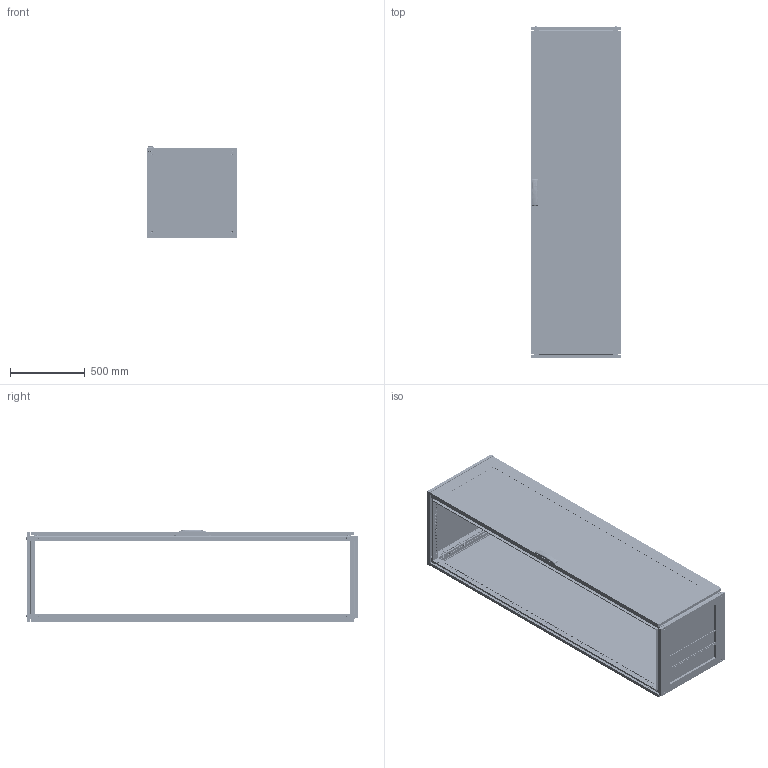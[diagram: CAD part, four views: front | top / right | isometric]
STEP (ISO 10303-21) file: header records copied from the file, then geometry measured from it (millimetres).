
FILE_DESCRIPTION (( 'STEP AP203' ), '1' );
FILE_NAME ('R5CQEN2266AX.STEP', '2025-05-07T12:15:13', ( '' ), ( '' ), 'SwSTEP 2.0', 'SolidWorks 2022', '' );
FILE_SCHEMA (( 'CONFIG_CONTROL_DESIGN' ));
Length unit declared in the file: millimetre
Products named in the file (66): RB.0528.04.00.0 СБ simple; RB.2686.00.00.0 simple; M6x10 DIN 7500 E HX cl.5.8 Zinc_straight; R5CQEN2266AX; R5NCRE-Assem simple_R5NCRE2260; AC00C446-R; R5NKMN - Assem simple_R5NKMN22 (600х600); RB.0562.00.00.0 СБ simple_-18; RB.1957.00.00.0 simple_-05; RB.2968.00.00.0 simple; 4.8x13 DIN 7981 PH Zinc_straight; RB.1633.00.01.0 simple_-02; RB.0562.01.01.0 simple_-18; R5NCPTE - Assem simple_R5NCPTE2260; TPA.08.0139.00.03.0; ATOS Traction guide ILY03.35; TPA.08.0139.00.01.0 simple; M6 MGR-MKO-0625 simple_Thread; RB.1867.01.01.0 simple_-09; RB.1867.01.00.0 СБ simple_-24; RB.0528.00.01.0 simple_-06; RB.2457.00.00.0 СБ simple_-14; M6x10 DIN 7500 M Torx cl.5.8 Zinc_straight; R5NKTB - Assem simple_H=2200 R5NKTB66; M6 DIN 985 cl.6,0 Zinc_straight; RB.1633.00.02.0 simple_-02; RB.2755.00.00.0 СБ simple_-14; RB.1957.00.00.0 simple_-06; M8x12 AC00C476 cl.8,8 Zinc_stright; RB.0528.04.01.0 simple; RB.2528.00.00.0 simple_-06; RB.0054.01.01.0 simple_-29; М6х12 A5100231_straight; Glue CPTE simple_2200x0600; RB.0562.01.00.0 СБ simple_-18; RB.2455.00.00.0 simple_-02; RB.2680.00.00.0 СБ simple; RB.2969.00.01.0 simple; RB.2680.00.01.0 simple; 7 DIN 6799 Zinc simple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
Assembly tree (173 placements, depth 5):
  R5CQEN2266AX
    R5NCPTE - Assem simple_R5NCPTE2260
      RB.0562.00.00.0 СБ simple_-18
        RB.0562.01.00.0 СБ simple_-18
          RB.0562.01.01.0 simple_-18
          М6х12 A5100231_straight  x7
          RB.2702.00.00.0 simple  x4
          PF 7,5x15 CPE simple_2200x0600
          Glass CPTE_2200x0600
          Glue CPTE simple_2200x0600
        Square cap 20x20 simple  x2
        M6x15 Erickson cl.4,8 Zinc  x2
        RB.0528.00.01.0 simple_-06  x2
        ATOS Traction guide ILY03.35  x4
        RB.2357.00.00.0 simple_-03
        RB.2680.00.00.0 СБ simple
          TPA.08.0139.00.01.0 simple
          RB.2680.00.01.0 simple
          RB.2680.00.02.0 simple  x2
        TPA.08.0139.00.03.0  x2
        M6 DIN 985 cl.6,0 Zinc_straight  x4
        4,0x16 F Torx Zinc (ART 88200)_thread  x2
        RB.0528.04.00.0 СБ simple  x2
          RB.0528.04.01.0 simple
          Pressing stud FH-M6-12_M6x12mm
      M6x10 DIN 912 HX cl.8,8 Zinc_straight  x8
      4.8x13 DIN 7981 PH Zinc_straight
      7 DIN 6799 Zinc simple  x4
      RB.2968.00.00.0 simple  x4
      RB.2969.00.00.0 СБ simple  x4
        RB.2969.00.01.0 simple
        Pin 4x16 DIN 7 AISI 303 (A1) simple
        M6 MGR-MKO-0625 simple_Thread
      AC00C446-R
      RB.2696.00.00.0 simple  x4
      7 DIN 6799 Zinc  x4
    R5NCRE-Assem simple_R5NCRE2260
      RB.2052.00.00.0 СБ simple_-29
        RB.2052.01.00.0 СБ simple_-29
          RB.0054.01.01.0 simple_-29
          М6х12 A5100231_straight  x4
        PF 7x14 CRE simple_2200x0600
      RB.2172.00.00.1 simple  x8
      M6x10 DIN 7500 E HX cl.5.8 Zinc_straight  x8
      M6x10 DIN 7500 M Torx cl.5.8 Zinc_straight  x8
    R5NKMN - Assem simple_R5NKMN22 (600х600)
      RB.2528.00.00.0 simple_-06  x4
    R5NKTB - Assem simple_H=2200 R5NKTB66
      RB.2499.00.00.0 СБ simple_-14
        RB.2499.01.00.0 СБ simple_-13
          RB.1633.00.01.0 simple_-02  x2
          RB.1633.00.02.0 simple_-02  x2
          PF 5x10 KTB simple_600x600
        RB.2457.00.00.0 СБ simple_-14
          RB.2455.00.00.0 simple_-02  x2
          RB.2456.00.00.0 simple_-02  x2
          TPA.08.0084.00.00.0 simple  x2
          TPA.08.0083.00.00.0 simple  x2
          M8x12 AC00C476 cl.8,8 Zinc_stright  x4
        RB.1957.00.00.0 simple_-05  x2
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Bounding box: 600 x 2213.3 x 614.79 mm (x, y, z)
Volume: 15896818 mm3; surface area: 13936862.7 mm2
Topology: 176 solids, 192 shells, 23181 faces, 65775 edges, 43363 vertices
Faces by surface type: plane 12963, cylinder 8677, cone 704, bspline 435, torus 368, sphere 34
Entity records: 231504 total; most frequent: CARTESIAN_POINT 56645, ORIENTED_EDGE 34718, DIRECTION 33141, EDGE_CURVE 17385, VERTEX_POINT 11518, AXIS2_PLACEMENT_3D 11101, LINE 10939, VECTOR 10939
